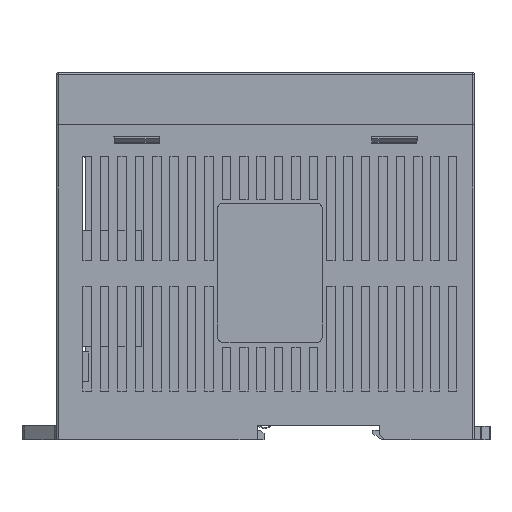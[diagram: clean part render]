
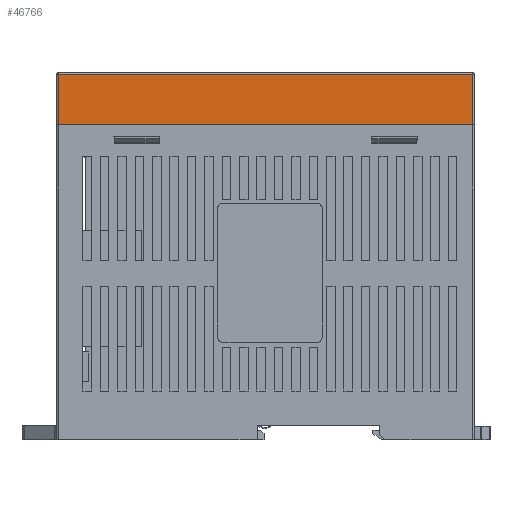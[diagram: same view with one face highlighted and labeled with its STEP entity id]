
A CAD part, left-side view. The second image highlights one B-rep face of the part: STEP entity #46766.
In plain terms, the highlighted planar face has unit normal (-1, 0, 0) as drawn and (1, 0, 0) by its records, which use the part's own axes.
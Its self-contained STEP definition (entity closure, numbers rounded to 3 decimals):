
#43980=DIRECTION('',(0.,1.,0.));
#43981=VECTOR('',#43980,119.);
#43982=CARTESIAN_POINT('',(37.,0.5,15.));
#43983=LINE('',#43982,#43981);
#44021=DIRECTION('',(0.,0.,-1.));
#44022=VECTOR('',#44021,14.5);
#44023=CARTESIAN_POINT('',(37.,0.5,15.));
#44024=LINE('',#44023,#44022);
#44025=DIRECTION('',(0.,0.,-1.));
#44026=VECTOR('',#44025,14.5);
#44027=CARTESIAN_POINT('',(37.,119.5,15.));
#44028=LINE('',#44027,#44026);
#44029=DIRECTION('',(0.,-1.,0.));
#44030=VECTOR('',#44029,119.);
#44031=CARTESIAN_POINT('',(37.,119.5,0.5));
#44032=LINE('',#44031,#44030);
#45873=CARTESIAN_POINT('',(37.,0.5,15.));
#45874=VERTEX_POINT('',#45873);
#45875=CARTESIAN_POINT('',(37.,0.5,0.5));
#45876=VERTEX_POINT('',#45875);
#45891=CARTESIAN_POINT('',(37.,119.5,15.));
#45893=VERTEX_POINT('',#45891);
#45895=CARTESIAN_POINT('',(37.,119.5,0.5));
#45896=VERTEX_POINT('',#45895);
#46754=CARTESIAN_POINT('',(37.,0.,0.));
#46755=DIRECTION('',(1.,0.,0.));
#46756=DIRECTION('',(0.,1.,0.));
#46757=AXIS2_PLACEMENT_3D('',#46754,#46755,#46756);
#46758=PLANE('',#46757);
#46760=ORIENTED_EDGE('',*,*,#46759,.F.);
#46761=ORIENTED_EDGE('',*,*,#46686,.T.);
#46762=ORIENTED_EDGE('',*,*,#46749,.T.);
#46763=ORIENTED_EDGE('',*,*,#46544,.T.);
#46764=EDGE_LOOP('',(#46760,#46761,#46762,#46763));
#46765=FACE_OUTER_BOUND('',#46764,.F.);
#46544=EDGE_CURVE('',#45896,#45876,#44032,.T.);
#46686=EDGE_CURVE('',#45874,#45893,#43983,.T.);
#46749=EDGE_CURVE('',#45893,#45896,#44028,.T.);
#46759=EDGE_CURVE('',#45874,#45876,#44024,.T.);
#46766=ADVANCED_FACE('',(#46765),#46758,.T.);
